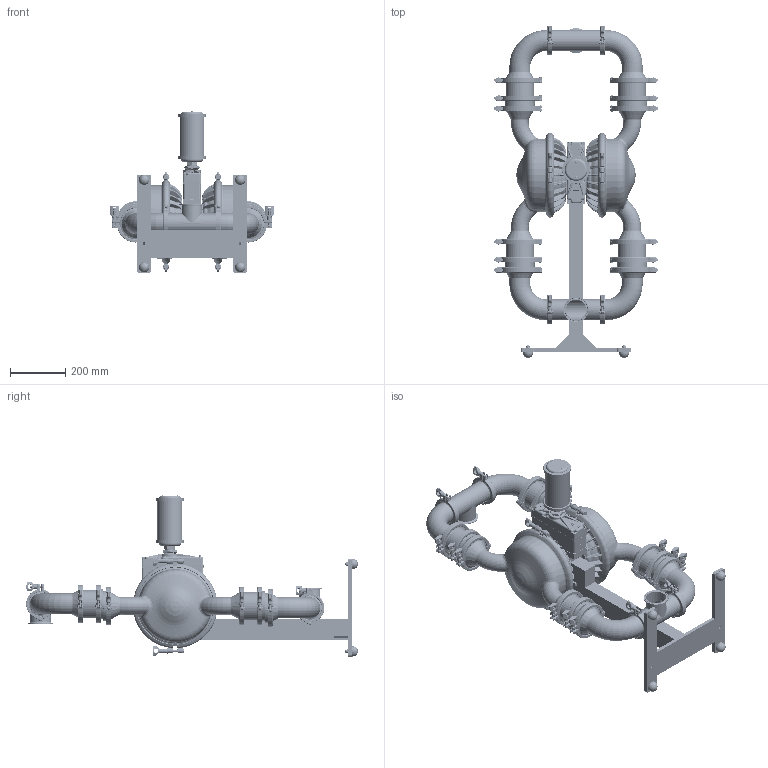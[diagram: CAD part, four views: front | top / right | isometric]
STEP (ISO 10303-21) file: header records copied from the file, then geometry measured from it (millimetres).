
FILE_DESCRIPTION((''),'2;1');
FILE_NAME('PS15_SS_SANIFLO_HS_FL_SW0006','2015-05-01T',('nathan.hale'),(''),'PRO/ENGINEER BY PARAMETRIC TECHNOLOGY CORPORATION, 2013320','PRO/ENGINEER BY PARAMETRIC TECHNOLOGY CORPORATION, 2013320','');
FILE_SCHEMA(('CONFIG_CONTROL_DESIGN'));
Products named in the file (1): PS15_SS_SANIFLO_HS_FL_SW0006
Bounding box: 597.97 x 1205.83 x 585.8 mm (x, y, z)
Volume: 12697483.5 mm3; surface area: 3656118.1 mm2
Topology: 19 solids, 42 shells, 22046 faces, 56119 edges, 34734 vertices
Faces by surface type: plane 10623, cylinder 3713, bspline 3261, torus 2539, cone 1146, sphere 681, extrusion 83
Entity records: 1288660 total; most frequent: CARTESIAN_POINT 776666, ORIENTED_EDGE 111822, DIRECTION 99931, EDGE_CURVE 55911, VERTEX_POINT 34734, AXIS2_PLACEMENT_3D 33875, VECTOR 32181, LINE 32098
